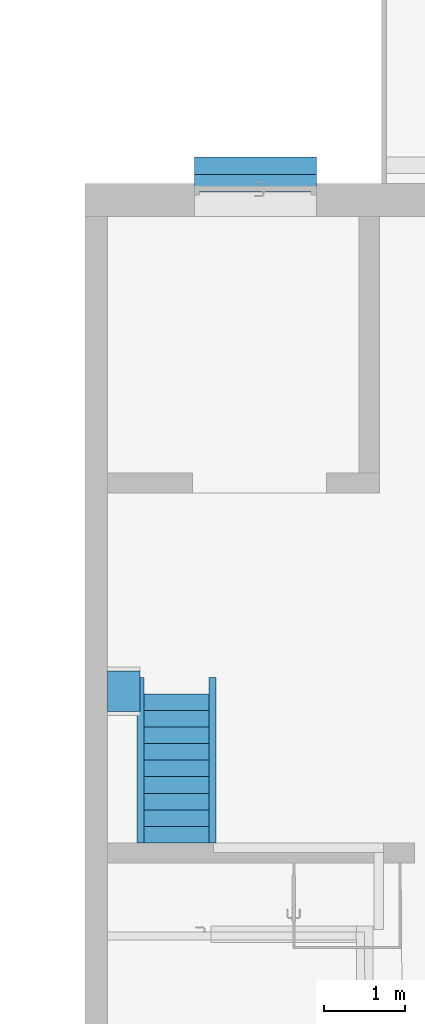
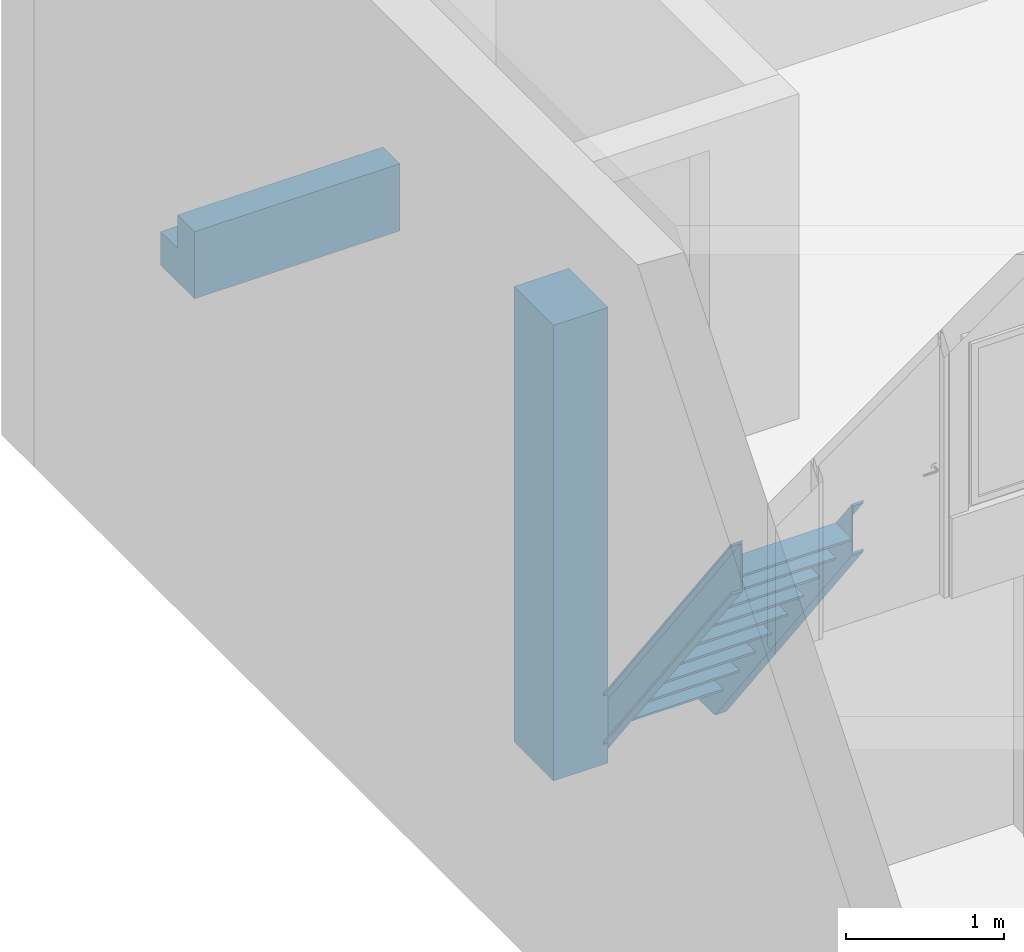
# One storey, part 213 of 301: 5 building element parts, 3 elements without a shape of their own.
"""IFC2X3 building model written with IfcOpenShell, lengths in millimetres."""

from ifc_helpers import new_model, entity, si_unit, converted_unit, derived_unit, money_unit, direction, frame, origin_with_axes, place, context, subcontext, project, spatial, faceted_brep, material, type_object, element, aggregate, save


model = new_model("IFC2X3")

# Units and contexts
model_context = context("Model", 3, precision=0.01, world=origin_with_axes(), true_north=direction((0.0, 1.0)))
body_context = subcontext(model_context, "Body", "Model", "MODEL_VIEW")
ifc_project = project(units=[si_unit("LENGTHUNIT", "METRE", prefix="MILLI"), si_unit("AREAUNIT", "SQUARE_METRE"), si_unit("VOLUMEUNIT", "CUBIC_METRE"), converted_unit("PLANEANGLEUNIT", "DEGREE", entity("IfcPlaneAngleMeasure", 0.0174532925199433), si_unit("PLANEANGLEUNIT", "RADIAN"), dimensions=[0, 0, 0, 0, 0, 0, 0]), money_unit("EUR"), converted_unit("TIMEUNIT", "Year", entity("IfcTimeMeasure", 31557600.0), si_unit("TIMEUNIT", "SECOND"), dimensions=[0, 0, 1, 0, 0, 0, 0]), si_unit("MASSUNIT", "GRAM", prefix="KILO"), si_unit("THERMODYNAMICTEMPERATUREUNIT", "DEGREE_CELSIUS"), si_unit("LUMINOUSINTENSITYUNIT", "LUMEN"), si_unit("ENERGYUNIT", "JOULE", prefix="MEGA"), derived_unit("THERMALCONDUCTANCEUNIT", [(si_unit("POWERUNIT", "WATT"), 1), (si_unit("LENGTHUNIT", "METRE"), -1), (si_unit("THERMODYNAMICTEMPERATUREUNIT", "KELVIN"), -1)]), derived_unit("SPECIFICHEATCAPACITYUNIT", [(si_unit("ENERGYUNIT", "JOULE"), 1), (si_unit("MASSUNIT", "GRAM", prefix="KILO"), -1), (si_unit("THERMODYNAMICTEMPERATUREUNIT", "KELVIN"), -1)]), derived_unit("MASSDENSITYUNIT", [(si_unit("MASSUNIT", "GRAM", prefix="KILO"), 1), (si_unit("VOLUMEUNIT", "CUBIC_METRE"), -1)])], contexts=[model_context])

# Site, building, storey
site_placement = place(None, frame((0.0, 0.0, 8650.0), z_axis=(0.0, 0.0, 1.0), x_axis=(1.0, 0.0, 0.0)))
site = spatial("IfcSite", under=ifc_project, at=site_placement, Name="43301:001:0844", CompositionType="ELEMENT")
building_placement = place(site_placement, origin_with_axes())
building = spatial("IfcBuilding", under=site, at=building_placement, Name="Kuressaare Ametikooli tuulikute mehaanikute õppekorpus", CompositionType="ELEMENT")
storey_placement = place(building_placement, origin_with_axes())
storey = spatial("IfcBuildingStorey", under=building, at=storey_placement, Name="1.korrus", CompositionType="ELEMENT", Elevation=0.0)

# Stair, building element part
stair_1_placement = place(storey_placement, frame((90793.53632157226, 123258.3381731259, -854.9981555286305), z_axis=(0.0, 0.0, 1.0), x_axis=(0.999999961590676, -0.0002771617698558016, 0.0)))
stair_1 = element("IfcStair", 1, at=stair_1_placement, inside=storey, Name="Trepp", ShapeType="NOTDEFINED")
ifc_material = material(Name="GENEERILINE - KONSTRUKTRIOON")
building_element_part_1_placement = place(stair_1_placement, origin_with_axes())
building_element_part_1 = element("IfcBuildingElementPart", 2, at=building_element_part_1_placement, material=ifc_material, Name="GENEERILINE - KONSTRUKTRIOON", context=body_context, shape_type="Brep", body=[
    faceted_brep([(-1504.999999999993, -408.175571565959, 260.0), (0.0, -408.1755715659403, 260.0), (0.0, -192.8817496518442, 260.0), (-1504.999999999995, -192.8817496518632, 260.0), (-1504.999999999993, -408.175571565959, 520.0), (0.0, -408.1755715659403, 520.0), (0.0, -192.8817496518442, 0.0), (0.0, -623.469393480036, 520.0), (0.0, -623.469393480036, 0.0), (-1504.999999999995, -192.8817496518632, 0.0), (-1504.99999999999, -623.469393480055, 0.0), (-1504.99999999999, -623.469393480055, 520.0)], [[[0, 1, 2, 3]], [[1, 0, 4, 5]], [[6, 2, 1, 5, 7, 8]], [[2, 6, 9, 3]], [[0, 3, 9, 10, 11, 4]], [[7, 5, 4, 11]], [[11, 10, 8, 7]], [[8, 10, 9, 6]]]),
])
aggregate(stair_1, [building_element_part_1])

# Stair, building element parts
stair_2_placement = place(storey_placement, frame((89069.16185968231, 116656.85033766, -330.0), z_axis=(0.0, 0.0, 1.0), x_axis=(1.0, 0.0, 0.0)))
stair_2 = element("IfcStair", 3, at=stair_2_placement, inside=storey, ShapeType="NOTDEFINED")
building_element_part_2_placement = place(stair_2_placement, origin_with_axes())
building_element_part_2 = element("IfcBuildingElementPart", 4, at=building_element_part_2_placement, material=ifc_material, Name="GENEERILINE - KONSTRUKTRIOON", context=body_context, shape_type="Brep", body=[
    faceted_brep([(400.0000000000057, -2044.902328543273, 2292.611846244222), (400.0000000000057, -2044.902328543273, 2690.0), (400.0000000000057, -6.567583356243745, 0.0), (400.0000000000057, -307.6865726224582, 0.0), (484.9999999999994, -2044.902328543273, 2690.0), (484.9999999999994, -2044.902328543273, 2292.611846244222), (484.9999999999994, -2044.902328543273, 2314.137037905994), (409.9999999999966, -2044.902328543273, 2314.137037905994), (409.9999999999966, -2044.902328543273, 2668.47480833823), (484.9999999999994, -2044.902328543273, 2668.474808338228), (484.9999999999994, -6.567583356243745, 0.0), (484.9999999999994, -307.6865726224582, 0.0), (484.9999999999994, -22.87819527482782, 0.0), (409.9999999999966, -22.87819527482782, 0.0), (409.9999999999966, -291.3759607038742, 0.0), (484.9999999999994, -291.3759607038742, 0.0)], [[[0, 1, 2, 3]], [[4, 1, 0, 5, 6, 7, 8, 9]], [[1, 4, 10, 2]], [[11, 3, 2, 10, 12, 13, 14, 15]], [[5, 0, 3, 11]], [[6, 5, 11, 15]], [[7, 6, 15, 14]], [[8, 7, 14, 13]], [[9, 8, 13, 12]], [[4, 9, 12, 10]]]),
])
building_element_part_3_placement = place(stair_2_placement, origin_with_axes())
building_element_part_3 = element("IfcBuildingElementPart", 5, at=building_element_part_3_placement, material=ifc_material, Name="GENEERILINE - KONSTRUKTRIOON", context=body_context, shape_type="Brep", body=[
    faceted_brep([(-484.9999999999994, -2044.902328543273, 2668.474808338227), (-484.9999999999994, -2044.902328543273, 2690.0), (-484.9999999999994, -6.567583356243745, 0.0), (-484.9999999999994, -22.87819527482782, 0.0), (-400.0000000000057, -2044.902328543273, 2690.0), (-409.9999999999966, -2044.902328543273, 2668.47480833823), (-409.9999999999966, -2044.902328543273, 2314.137037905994), (-484.9999999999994, -2044.902328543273, 2314.137037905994), (-484.9999999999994, -2044.902328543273, 2292.611846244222), (-400.0000000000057, -2044.902328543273, 2292.611846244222), (-400.0000000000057, -6.567583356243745, 0.0), (-409.9999999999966, -22.87819527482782, 0.0), (-400.0000000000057, -307.6865726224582, 0.0), (-484.9999999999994, -307.6865726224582, 0.0), (-484.9999999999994, -291.3759607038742, 0.0), (-409.9999999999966, -291.3759607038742, 0.0)], [[[0, 1, 2, 3]], [[4, 1, 0, 5, 6, 7, 8, 9]], [[1, 4, 10, 2]], [[11, 3, 2, 10, 12, 13, 14, 15]], [[5, 0, 3, 11]], [[6, 5, 11, 15]], [[7, 6, 15, 14]], [[8, 7, 14, 13]], [[9, 8, 13, 12]], [[4, 9, 12, 10]]]),
])
building_element_part_4_placement = place(stair_2_placement, origin_with_axes())
building_element_part_4 = element("IfcBuildingElementPart", 6, at=building_element_part_4_placement, material=ifc_material, Name="GENEERILINE - KONSTRUKTRIOON", context=body_context, shape_type="Brep", body=[
    faceted_brep([(400.0000000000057, -210.4010578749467, 254.0), (-400.0000000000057, -210.4010578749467, 254.0), (-400.0000000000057, -210.4010578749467, 269.0), (400.0000000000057, -210.4010578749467, 269.0), (400.0000000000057, -414.2345323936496, 254.0), (-400.0000000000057, -414.2345323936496, 254.0), (-400.0000000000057, -414.2345323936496, 269.0), (400.0000000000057, -414.2345323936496, 269.0)], [[[0, 1, 2, 3]], [[0, 4, 5, 1]], [[1, 5, 6, 2]], [[3, 2, 6, 7]], [[4, 0, 3, 7]], [[5, 4, 7, 6]]]),
    faceted_brep([(400.0000000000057, -414.2345323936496, 523.0), (-400.0000000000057, -414.2345323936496, 523.0), (-400.0000000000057, -414.2345323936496, 538.0), (400.0000000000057, -414.2345323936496, 538.0), (400.0000000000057, -618.0680069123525, 523.0), (-400.0000000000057, -618.0680069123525, 523.0), (-400.0000000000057, -618.0680069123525, 538.0), (400.0000000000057, -618.0680069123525, 538.0)], [[[0, 1, 2, 3]], [[0, 4, 5, 1]], [[1, 5, 6, 2]], [[3, 2, 6, 7]], [[4, 0, 3, 7]], [[5, 4, 7, 6]]]),
    faceted_brep([(400.0000000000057, -618.0680069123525, 792.0), (-400.0000000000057, -618.0680069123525, 792.0), (-400.0000000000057, -618.0680069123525, 807.0), (400.0000000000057, -618.0680069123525, 807.0), (400.0000000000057, -821.9014814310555, 792.0), (-400.0000000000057, -821.9014814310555, 792.0), (-400.0000000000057, -821.9014814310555, 807.0), (400.0000000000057, -821.9014814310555, 807.0)], [[[0, 1, 2, 3]], [[0, 4, 5, 1]], [[1, 5, 6, 2]], [[3, 2, 6, 7]], [[4, 0, 3, 7]], [[5, 4, 7, 6]]]),
    faceted_brep([(400.0000000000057, -821.9014814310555, 1061.0), (-400.0000000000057, -821.9014814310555, 1061.0), (-400.0000000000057, -821.9014814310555, 1076.0), (400.0000000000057, -821.9014814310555, 1076.0), (400.0000000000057, -1025.734955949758, 1061.0), (-400.0000000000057, -1025.734955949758, 1061.0), (-400.0000000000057, -1025.734955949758, 1076.0), (400.0000000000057, -1025.734955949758, 1076.0)], [[[0, 1, 2, 3]], [[0, 4, 5, 1]], [[1, 5, 6, 2]], [[3, 2, 6, 7]], [[4, 0, 3, 7]], [[5, 4, 7, 6]]]),
    faceted_brep([(400.0000000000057, -1025.734955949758, 1330.0), (-400.0000000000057, -1025.734955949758, 1330.0), (-400.0000000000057, -1025.734955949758, 1345.0), (400.0000000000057, -1025.734955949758, 1345.0), (400.0000000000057, -1229.568430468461, 1330.0), (-400.0000000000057, -1229.568430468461, 1330.0), (-400.0000000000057, -1229.568430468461, 1345.0), (400.0000000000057, -1229.568430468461, 1345.0)], [[[0, 1, 2, 3]], [[0, 4, 5, 1]], [[1, 5, 6, 2]], [[3, 2, 6, 7]], [[4, 0, 3, 7]], [[5, 4, 7, 6]]]),
    faceted_brep([(400.0000000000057, -1229.568430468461, 1599.0), (-400.0000000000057, -1229.568430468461, 1599.0), (-400.0000000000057, -1229.568430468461, 1614.0), (400.0000000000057, -1229.568430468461, 1614.0), (400.0000000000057, -1433.401904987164, 1599.0), (-400.0000000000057, -1433.401904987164, 1599.0), (-400.0000000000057, -1433.401904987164, 1614.0), (400.0000000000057, -1433.401904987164, 1614.0)], [[[0, 1, 2, 3]], [[0, 4, 5, 1]], [[1, 5, 6, 2]], [[3, 2, 6, 7]], [[4, 0, 3, 7]], [[5, 4, 7, 6]]]),
    faceted_brep([(400.0000000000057, -1433.401904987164, 1868.0), (-400.0000000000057, -1433.401904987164, 1868.0), (-400.0000000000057, -1433.401904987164, 1883.0), (400.0000000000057, -1433.401904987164, 1883.0), (400.0000000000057, -1637.235379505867, 1868.0), (-400.0000000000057, -1637.235379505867, 1868.0), (-400.0000000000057, -1637.235379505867, 1883.0), (400.0000000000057, -1637.235379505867, 1883.0)], [[[0, 1, 2, 3]], [[0, 4, 5, 1]], [[1, 5, 6, 2]], [[3, 2, 6, 7]], [[4, 0, 3, 7]], [[5, 4, 7, 6]]]),
    faceted_brep([(400.0000000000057, -1637.235379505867, 2137.0), (-400.0000000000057, -1637.235379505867, 2137.0), (-400.0000000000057, -1637.235379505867, 2152.0), (400.0000000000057, -1637.235379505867, 2152.0), (400.0000000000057, -1841.06885402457, 2137.0), (-400.0000000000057, -1841.06885402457, 2137.0), (-400.0000000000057, -1841.06885402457, 2152.0), (400.0000000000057, -1841.06885402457, 2152.0)], [[[0, 1, 2, 3]], [[0, 4, 5, 1]], [[1, 5, 6, 2]], [[3, 2, 6, 7]], [[4, 0, 3, 7]], [[5, 4, 7, 6]]]),
    faceted_brep([(400.0000000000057, -1841.06885402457, 2406.0), (-400.0000000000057, -1841.06885402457, 2406.0), (-400.0000000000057, -1841.06885402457, 2421.0), (400.0000000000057, -1841.06885402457, 2421.0), (400.0000000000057, -2044.902328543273, 2406.0), (-400.0000000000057, -2044.902328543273, 2406.0), (-400.0000000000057, -2044.902328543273, 2421.0), (400.0000000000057, -2044.902328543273, 2421.0)], [[[0, 1, 2, 3]], [[0, 4, 5, 1]], [[1, 5, 6, 2]], [[3, 2, 6, 7]], [[4, 0, 3, 7]], [[5, 4, 7, 6]]]),
])
aggregate(stair_2, [building_element_part_2, building_element_part_3, building_element_part_4])

# Column, building element part
column_type = type_object("IfcColumnType", Name="Various Structures - 3 Segments - 600 x 400 x 3982 (3527+63+391)", PredefinedType="NOTDEFINED")
column_placement = place(storey_placement, frame((88419.61139504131, 116480.8611339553, -330.0000000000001), z_axis=(0.0, 0.0, 1.0), x_axis=(0.0, 1.0, 0.0)))
column = element("IfcColumn", 7, at=column_placement, inside=storey, type_object=column_type)
building_element_part_5_placement = place(column_placement, origin_with_axes())
building_element_part_5 = element("IfcBuildingElementPart", 8, at=building_element_part_5_placement, material=ifc_material, Name="GENEERILINE - KONSTRUKTRIOON", context=body_context, shape_type="Brep", body=[
    faceted_brep([(-250.0, -200.0000000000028, 3527.287245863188), (-250.0, -200.0000000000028, 0.0), (250.0, -200.0000000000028, 0.0), (250.0, -200.0000000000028, 3527.287245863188), (-250.0, 200.0000000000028, 3527.287245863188), (-250.0, 200.0000000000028, 0.0), (250.0, 200.0000000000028, 0.0), (250.0, 200.0000000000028, 3527.287245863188)], [[[0, 1, 2, 3]], [[4, 5, 1, 0]], [[2, 1, 5, 6]], [[3, 2, 6, 7]], [[4, 0, 3, 7]], [[7, 6, 5, 4]]]),
])
aggregate(column, [building_element_part_5])

save(model, "model.ifc")
